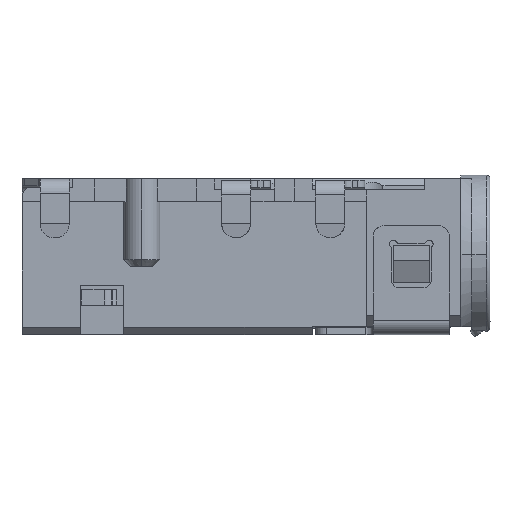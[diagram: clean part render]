
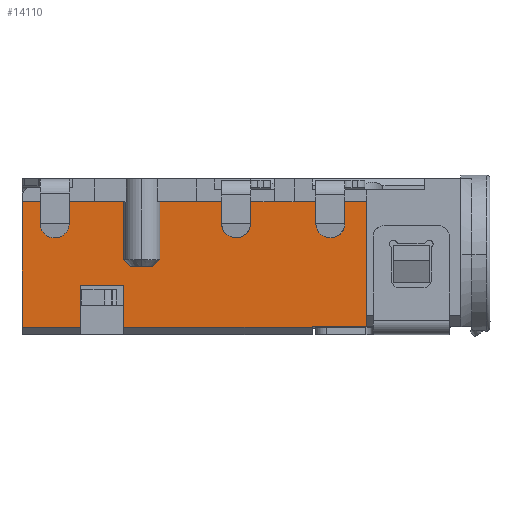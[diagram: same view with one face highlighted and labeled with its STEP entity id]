
A CAD part, left-side view. The second image highlights one B-rep face of the part: STEP entity #14110.
In plain terms, the highlighted planar face has unit normal (-1, 0, 0).
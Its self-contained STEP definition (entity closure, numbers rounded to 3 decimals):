
#98 = DIRECTION ( 'NONE',  ( 0., 0., 1. ) ) ;
#215 = CARTESIAN_POINT ( 'NONE',  ( -73.663, 2.9, -2.43 ) ) ;
#644 = LINE ( 'NONE', #1452, #7515 ) ;
#1047 = ORIENTED_EDGE ( 'NONE', *, *, #1099, .F. ) ;
#1094 = VERTEX_POINT ( 'NONE', #8792 ) ;
#1099 = EDGE_CURVE ( 'NONE', #21620, #15360, #27953, .T. ) ;
#1257 = CARTESIAN_POINT ( 'NONE',  ( -73.663, 1.75, -4.1 ) ) ;
#1452 = CARTESIAN_POINT ( 'NONE',  ( -73.663, 2.7, -2.365 ) ) ;
#1748 = CARTESIAN_POINT ( 'NONE',  ( -73.663, 6.5, -2.15 ) ) ;
#2582 = EDGE_CURVE ( 'NONE', #26896, #25908, #15770, .T. ) ;
#2949 = CARTESIAN_POINT ( 'NONE',  ( -73.663, 1.75, -0.63 ) ) ;
#3788 = CARTESIAN_POINT ( 'NONE',  ( -73.663, -1.5, -4.1 ) ) ;
#4034 = VECTOR ( 'NONE', #7047, 1000. ) ;
#4123 = CARTESIAN_POINT ( 'NONE',  ( -73.663, -1.5, -2.15 ) ) ;
#4430 = EDGE_CURVE ( 'NONE', #15360, #1094, #23659, .T. ) ;
#4880 = EDGE_CURVE ( 'NONE', #20980, #5435, #14116, .T. ) ;
#5435 = VERTEX_POINT ( 'NONE', #22332 ) ;
#6192 = DIRECTION ( 'NONE',  ( 0., 0., -1. ) ) ;
#6546 = VECTOR ( 'NONE', #12952, 1000. ) ;
#6751 = EDGE_CURVE ( 'NONE', #16392, #26896, #25835, .T. ) ;
#6764 = VERTEX_POINT ( 'NONE', #20192 ) ;
#6827 = ORIENTED_EDGE ( 'NONE', *, *, #9656, .F. ) ;
#7047 = DIRECTION ( 'NONE',  ( 0., 0., -1. ) ) ;
#7425 = VECTOR ( 'NONE', #30608, 1000. ) ;
#7515 = VECTOR ( 'NONE', #16020, 1000. ) ;
#8058 = CARTESIAN_POINT ( 'NONE',  ( -73.663, 2.685, -2.215 ) ) ;
#8389 = CARTESIAN_POINT ( 'NONE',  ( -73.663, 1.75, -0.63 ) ) ;
#8484 = DIRECTION ( 'NONE',  ( 0., 0., -1. ) ) ;
#8514 = LINE ( 'NONE', #18146, #27150 ) ;
#8557 = VECTOR ( 'NONE', #8484, 1000. ) ;
#8682 = EDGE_CURVE ( 'NONE', #25970, #1094, #12021, .T. ) ;
#8781 = CARTESIAN_POINT ( 'NONE',  ( -73.663, 3.7, -4.1 ) ) ;
#8792 = CARTESIAN_POINT ( 'NONE',  ( -73.663, 6.5, -4.1 ) ) ;
#8825 = LINE ( 'NONE', #8058, #6546 ) ;
#9055 = EDGE_CURVE ( 'NONE', #18332, #20980, #18108, .T. ) ;
#9310 = LINE ( 'NONE', #2949, #18080 ) ;
#9563 = EDGE_CURVE ( 'NONE', #23009, #18332, #9310, .T. ) ;
#9623 = CARTESIAN_POINT ( 'NONE',  ( -73.663, 3.7, -0.63 ) ) ;
#9656 = EDGE_CURVE ( 'NONE', #13527, #15970, #14637, .T. ) ;
#9732 = DIRECTION ( 'NONE',  ( 0., 0., 1. ) ) ;
#9995 = ORIENTED_EDGE ( 'NONE', *, *, #4880, .F. ) ;
#10382 = FACE_OUTER_BOUND ( 'NONE', #19594, .T. ) ;
#10544 = ORIENTED_EDGE ( 'NONE', *, *, #6751, .F. ) ;
#11076 = CARTESIAN_POINT ( 'NONE',  ( -73.663, -3., -2.365 ) ) ;
#12021 = LINE ( 'NONE', #1748, #4034 ) ;
#12269 = EDGE_CURVE ( 'NONE', #25970, #13527, #22643, .T. ) ;
#12339 = LINE ( 'NONE', #18372, #18464 ) ;
#12952 = DIRECTION ( 'NONE',  ( 0., -0.707, 0.707 ) ) ;
#13031 = EDGE_CURVE ( 'NONE', #15970, #6764, #25262, .T. ) ;
#13293 = ORIENTED_EDGE ( 'NONE', *, *, #12269, .F. ) ;
#13527 = VERTEX_POINT ( 'NONE', #9623 ) ;
#13563 = CARTESIAN_POINT ( 'NONE',  ( -73.663, 4.9, -2.365 ) ) ;
#13766 = AXIS2_PLACEMENT_3D ( 'NONE', #21811, #23939, #98 ) ;
#13905 = CARTESIAN_POINT ( 'NONE',  ( -73.663, -3., -4.08 ) ) ;
#14110 = ADVANCED_FACE ( 'NONE', ( #10382 ), #26608, .F. ) ;
#14116 = LINE ( 'NONE', #14817, #15651 ) ;
#14146 = VECTOR ( 'NONE', #15929, 1000. ) ;
#14552 = CARTESIAN_POINT ( 'NONE',  ( -73.663, 6.5, -0.63 ) ) ;
#14637 = LINE ( 'NONE', #30607, #8557 ) ;
#14817 = CARTESIAN_POINT ( 'NONE',  ( -73.663, 1.75, -4.08 ) ) ;
#15360 = VERTEX_POINT ( 'NONE', #20454 ) ;
#15364 = VECTOR ( 'NONE', #19110, 1000. ) ;
#15616 = VERTEX_POINT ( 'NONE', #215 ) ;
#15651 = VECTOR ( 'NONE', #27574, 1000. ) ;
#15770 = LINE ( 'NONE', #16339, #15364 ) ;
#15929 = DIRECTION ( 'NONE',  ( 0., 1., 0. ) ) ;
#15970 = VERTEX_POINT ( 'NONE', #30714 ) ;
#16020 = DIRECTION ( 'NONE',  ( 0., 0., 1. ) ) ;
#16179 = CARTESIAN_POINT ( 'NONE',  ( -73.663, -3., -0.63 ) ) ;
#16339 = CARTESIAN_POINT ( 'NONE',  ( -73.663, 3.7, -2.365 ) ) ;
#16392 = VERTEX_POINT ( 'NONE', #3788 ) ;
#16424 = ORIENTED_EDGE ( 'NONE', *, *, #2582, .F. ) ;
#17045 = CARTESIAN_POINT ( 'NONE',  ( -73.663, 3.715, -2.215 ) ) ;
#17433 = DIRECTION ( 'NONE',  ( 0., 1., 0. ) ) ;
#18080 = VECTOR ( 'NONE', #27199, 1000. ) ;
#18108 = LINE ( 'NONE', #11076, #23046 ) ;
#18146 = CARTESIAN_POINT ( 'NONE',  ( -73.663, 1.75, -2.43 ) ) ;
#18332 = VERTEX_POINT ( 'NONE', #16179 ) ;
#18372 = CARTESIAN_POINT ( 'NONE',  ( -73.663, 1.75, -2.95 ) ) ;
#18464 = VECTOR ( 'NONE', #30602, 1000. ) ;
#19011 = ORIENTED_EDGE ( 'NONE', *, *, #31057, .F. ) ;
#19110 = DIRECTION ( 'NONE',  ( 0., 0., 1. ) ) ;
#19196 = VERTEX_POINT ( 'NONE', #24167 ) ;
#19594 = EDGE_LOOP ( 'NONE', ( #26704, #9995, #21429, #28864, #31059, #21061, #22872, #29162, #6827, #13293, #21315, #29091, #1047, #19011, #16424, #10544 ) ) ;
#20192 = CARTESIAN_POINT ( 'NONE',  ( -73.663, 3.5, -2.43 ) ) ;
#20344 = EDGE_CURVE ( 'NONE', #19196, #23009, #644, .T. ) ;
#20454 = CARTESIAN_POINT ( 'NONE',  ( -73.663, 4.9, -4.1 ) ) ;
#20589 = CARTESIAN_POINT ( 'NONE',  ( -73.663, 4.9, -2.95 ) ) ;
#20674 = DIRECTION ( 'NONE',  ( 0., -1., 0. ) ) ;
#20957 = CARTESIAN_POINT ( 'NONE',  ( -73.663, 3.7, -2.95 ) ) ;
#20980 = VERTEX_POINT ( 'NONE', #13905 ) ;
#21061 = ORIENTED_EDGE ( 'NONE', *, *, #26343, .F. ) ;
#21315 = ORIENTED_EDGE ( 'NONE', *, *, #8682, .T. ) ;
#21429 = ORIENTED_EDGE ( 'NONE', *, *, #9055, .F. ) ;
#21620 = VERTEX_POINT ( 'NONE', #20589 ) ;
#21811 = CARTESIAN_POINT ( 'NONE',  ( -73.663, 6.69, -4.169 ) ) ;
#21877 = VECTOR ( 'NONE', #25285, 1000. ) ;
#22332 = CARTESIAN_POINT ( 'NONE',  ( -73.663, -1.5, -4.08 ) ) ;
#22637 = CARTESIAN_POINT ( 'NONE',  ( -73.663, 1.75, -4.1 ) ) ;
#22643 = LINE ( 'NONE', #8389, #21877 ) ;
#22872 = ORIENTED_EDGE ( 'NONE', *, *, #24858, .F. ) ;
#23009 = VERTEX_POINT ( 'NONE', #31327 ) ;
#23046 = VECTOR ( 'NONE', #6192, 1000. ) ;
#23659 = LINE ( 'NONE', #1257, #14146 ) ;
#23939 = DIRECTION ( 'NONE',  ( 1., 0., 0. ) ) ;
#24167 = CARTESIAN_POINT ( 'NONE',  ( -73.663, 2.7, -2.23 ) ) ;
#24858 = EDGE_CURVE ( 'NONE', #6764, #15616, #8514, .T. ) ;
#25262 = LINE ( 'NONE', #17045, #29846 ) ;
#25285 = DIRECTION ( 'NONE',  ( 0., -1., 0. ) ) ;
#25835 = LINE ( 'NONE', #22637, #26973 ) ;
#25908 = VERTEX_POINT ( 'NONE', #20957 ) ;
#25970 = VERTEX_POINT ( 'NONE', #14552 ) ;
#26343 = EDGE_CURVE ( 'NONE', #15616, #19196, #8825, .T. ) ;
#26572 = EDGE_CURVE ( 'NONE', #16392, #5435, #30511, .T. ) ;
#26608 = PLANE ( 'NONE',  #13766 ) ;
#26704 = ORIENTED_EDGE ( 'NONE', *, *, #26572, .T. ) ;
#26896 = VERTEX_POINT ( 'NONE', #8781 ) ;
#26973 = VECTOR ( 'NONE', #17433, 1000. ) ;
#27150 = VECTOR ( 'NONE', #20674, 1000. ) ;
#27199 = DIRECTION ( 'NONE',  ( 0., -1., 0. ) ) ;
#27574 = DIRECTION ( 'NONE',  ( 0., 1., 0. ) ) ;
#27828 = VECTOR ( 'NONE', #9732, 1000. ) ;
#27953 = LINE ( 'NONE', #13563, #7425 ) ;
#28864 = ORIENTED_EDGE ( 'NONE', *, *, #9563, .F. ) ;
#29091 = ORIENTED_EDGE ( 'NONE', *, *, #4430, .F. ) ;
#29162 = ORIENTED_EDGE ( 'NONE', *, *, #13031, .F. ) ;
#29378 = DIRECTION ( 'NONE',  ( 0., -0.707, -0.707 ) ) ;
#29846 = VECTOR ( 'NONE', #29378, 1000. ) ;
#30511 = LINE ( 'NONE', #4123, #27828 ) ;
#30602 = DIRECTION ( 'NONE',  ( 0., 1., 0. ) ) ;
#30607 = CARTESIAN_POINT ( 'NONE',  ( -73.663, 3.7, -2.365 ) ) ;
#30608 = DIRECTION ( 'NONE',  ( 0., 0., -1. ) ) ;
#30714 = CARTESIAN_POINT ( 'NONE',  ( -73.663, 3.7, -2.23 ) ) ;
#31057 = EDGE_CURVE ( 'NONE', #25908, #21620, #12339, .T. ) ;
#31059 = ORIENTED_EDGE ( 'NONE', *, *, #20344, .F. ) ;
#31327 = CARTESIAN_POINT ( 'NONE',  ( -73.663, 2.7, -0.63 ) ) ;
